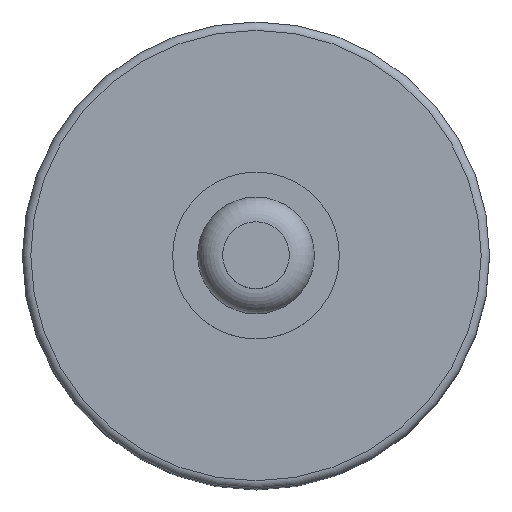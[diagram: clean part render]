
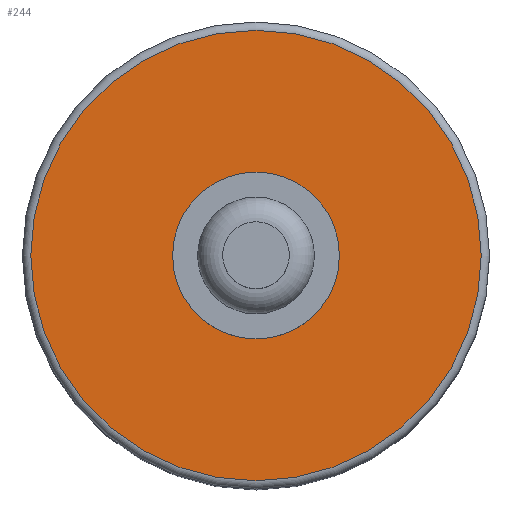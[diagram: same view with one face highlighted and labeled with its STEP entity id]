
A CAD part, top view. The second image highlights one B-rep face of the part: STEP entity #244.
In plain terms, the highlighted planar face has unit normal (0, 0, 1).
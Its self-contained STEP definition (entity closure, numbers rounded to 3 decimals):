
#161=CARTESIAN_POINT('',(5.0,0.,30.0));
#162=VERTEX_POINT('',#161);
#163=CARTESIAN_POINT('',(0.0,0.0,30.0));
#164=DIRECTION('',(0.0,0.0,-1.0));
#165=DIRECTION('',(-1.0,0.0,0.0));
#166=AXIS2_PLACEMENT_3D('',#163,#164,#165);
#167=CIRCLE('',#166,5.0);
#168=EDGE_CURVE('',#162,#162,#167,.T.);
#190=CARTESIAN_POINT('',(13.5,0.,30.0));
#191=VERTEX_POINT('',#190);
#192=CARTESIAN_POINT('',(0.0,0.0,30.0));
#193=DIRECTION('',(0.0,0.0,-1.0));
#194=DIRECTION('',(-1.0,0.0,0.0));
#195=AXIS2_PLACEMENT_3D('',#192,#193,#194);
#196=CIRCLE('',#195,13.5);
#197=EDGE_CURVE('',#191,#191,#196,.T.);
#233=CARTESIAN_POINT('',(0.0,0.0,30.0));
#234=DIRECTION('',(0.0,0.0,-1.0));
#235=DIRECTION('',(-1.0,0.0,0.0));
#236=AXIS2_PLACEMENT_3D('',#233,#234,#235);
#237=PLANE('',#236);
#238=ORIENTED_EDGE('',*,*,#197,.F.);
#239=EDGE_LOOP('',(#238));
#240=FACE_OUTER_BOUND('',#239,.T.);
#241=ORIENTED_EDGE('',*,*,#168,.T.);
#242=EDGE_LOOP('',(#241));
#243=FACE_BOUND('',#242,.T.);
#244=ADVANCED_FACE('',(#240,#243),#237,.F.);
